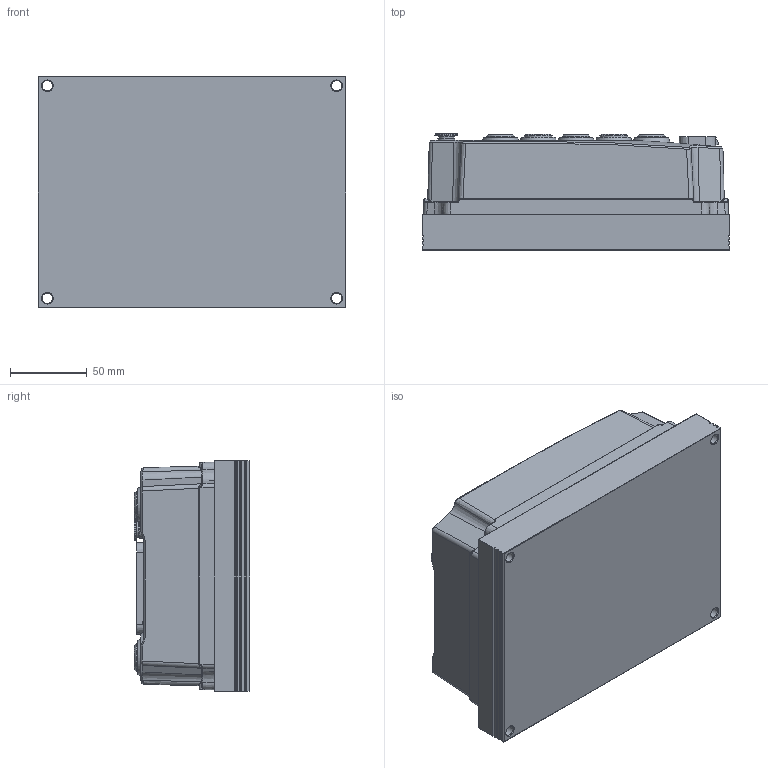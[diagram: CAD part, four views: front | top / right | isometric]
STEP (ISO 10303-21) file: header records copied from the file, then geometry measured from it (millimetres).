
FILE_DESCRIPTION(/* description */ (''),/* implementation_level */ '2;1');
FILE_NAME(/* name */ 'C:\1SSDE Vault\CAD\GVI\GVI_Frame_D\GVI_Frame_D_Shrinkwrap_1.stp',/* time_stamp */ '2019-09-12T16:01:10+01:00',/* author */ ('SC084691'),/* organization */ (''),/* preprocessor_version */ 'ST-DEVELOPER v18',/* originating_system */ 'Autodesk Inventor 2020',/* authorisation */ '');
FILE_SCHEMA (('CONFIG_CONTROL_DESIGN'));
Products named in the file (1): GVI_Frame_D_Shrinkwrap_1
Bounding box: 200 x 75.3 x 150 mm (x, y, z)
Volume: 828213 mm3; surface area: 231031.3 mm2
Topology: 16 solids, 16 shells, 3207 faces, 8488 edges, 5605 vertices
Faces by surface type: plane 1566, cone 552, bspline 474, cylinder 455, torus 124, sphere 36
Full cylindrical faces by diameter (mm): 1.3 x70, 2.75 x31, 3.7 x9, 4.2 x1, 4.5 x1, 5 x1, 6.6 x4, 6.8 x1, 9 x5, 10 x1, 11 x1, 12.5 x1, 14.1 x5, 14.3 x1, 18 x10
Entity records: 127581 total; most frequent: CARTESIAN_POINT 45233, ORIENTED_EDGE 16876, DIRECTION 15976, EDGE_CURVE 8438, AXIS2_PLACEMENT_3D 5650, VERTEX_POINT 5604, LINE 4676, VECTOR 4676
